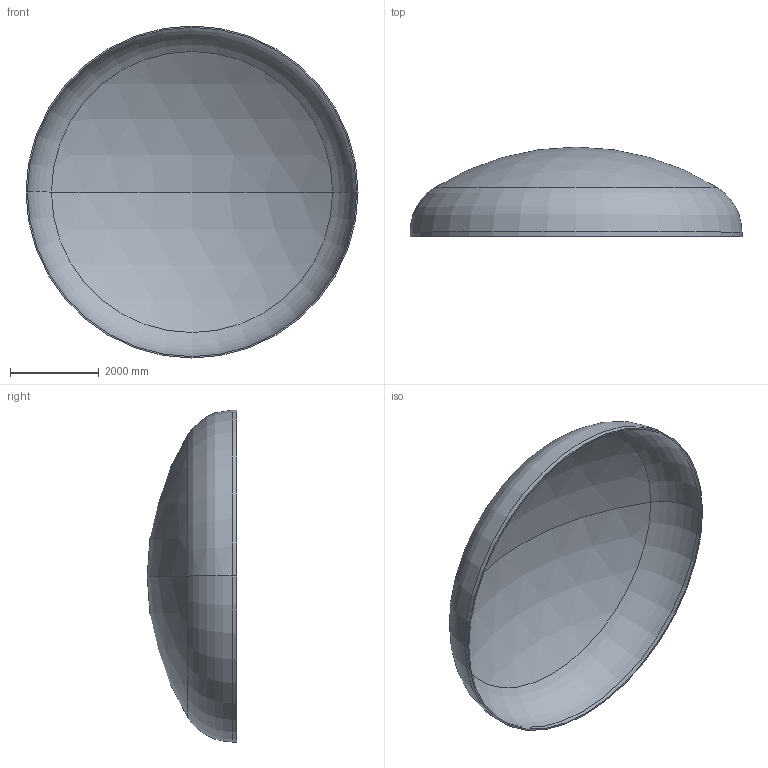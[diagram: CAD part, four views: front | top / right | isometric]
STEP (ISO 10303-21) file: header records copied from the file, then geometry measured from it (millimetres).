
FILE_DESCRIPTION (( 'STEP AP203' ), '1' );
FILE_NAME ('DIN 28013 Korbbogenform_-_Boden DIN 28013 - 7500 x 100 - I - s=31.step', '2016-07-04T10:52:59', ( '' ), ( '' ), 'SwSTEP 2.0', 'SolidWorks 2013', '' );
FILE_SCHEMA (( 'CONFIG_CONTROL_DESIGN' ));
Length unit declared in the file: millimetre
Products named in the file (1): DIN 28013 Korbbogenform_-_Boden DIN 28013 - 7500 x 100 - I - s=31
Bounding box: 7500 x 2020.05 x 7500 mm (x, y, z)
Volume: 1959286514.1 mm3; surface area: 127134944.9 mm2
Topology: 1 solids, 1 shells, 13 faces, 24 edges, 14 vertices
Faces by surface type: torus 4, cylinder 4, sphere 4, plane 1
Entity records: 407 total; most frequent: DIRECTION 72, CARTESIAN_POINT 52, ORIENTED_EDGE 48, AXIS2_PLACEMENT_3D 34, EDGE_CURVE 24, CIRCLE 20, EDGE_LOOP 14, VERTEX_POINT 14
